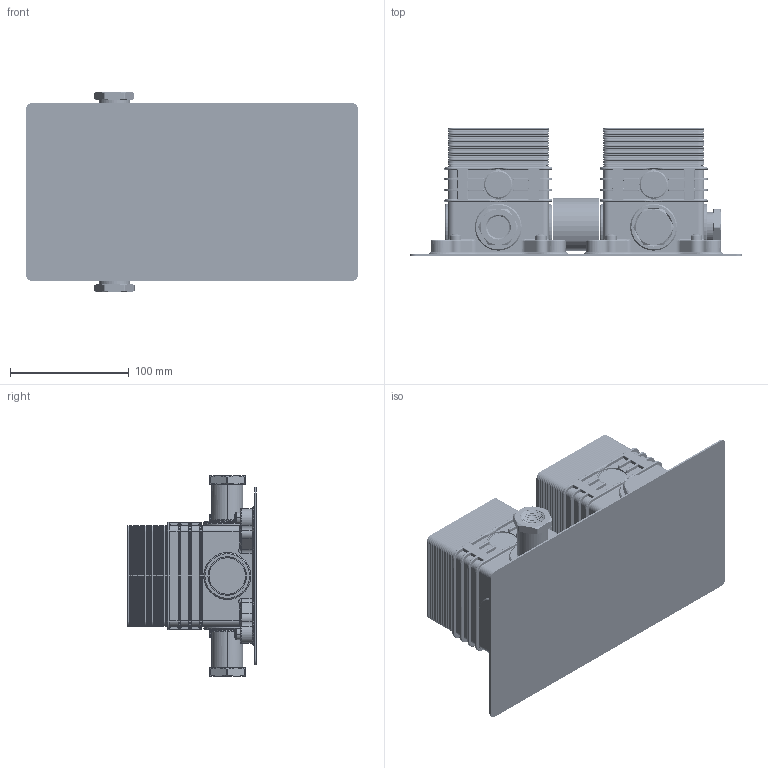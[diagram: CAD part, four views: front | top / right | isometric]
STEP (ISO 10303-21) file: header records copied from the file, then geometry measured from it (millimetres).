
FILE_DESCRIPTION((''),'2;1');
FILE_NAME('125288','2025-06-25T10:45:44',('WB441'),(''),'CREO PARAMETRIC BY PTC INC, 2024133','CREO PARAMETRIC BY PTC INC, 2024133','');
FILE_SCHEMA(('CONFIG_CONTROL_DESIGN'));
Products named in the file (1): 125288
Bounding box: 280 x 108.5 x 169 mm (x, y, z)
Volume: 468702.5 mm3; surface area: 379580.9 mm2
Topology: 2 solids, 2 shells, 5046 faces, 13541 edges, 8296 vertices
Faces by surface type: plane 1973, cylinder 1490, bspline 630, cone 498, torus 423, sphere 32
Entity records: 226099 total; most frequent: CARTESIAN_POINT 105700, ORIENTED_EDGE 26986, DIRECTION 22996, EDGE_CURVE 13493, VERTEX_POINT 8296, AXIS2_PLACEMENT_3D 8143, VECTOR 6710, LINE 6710
